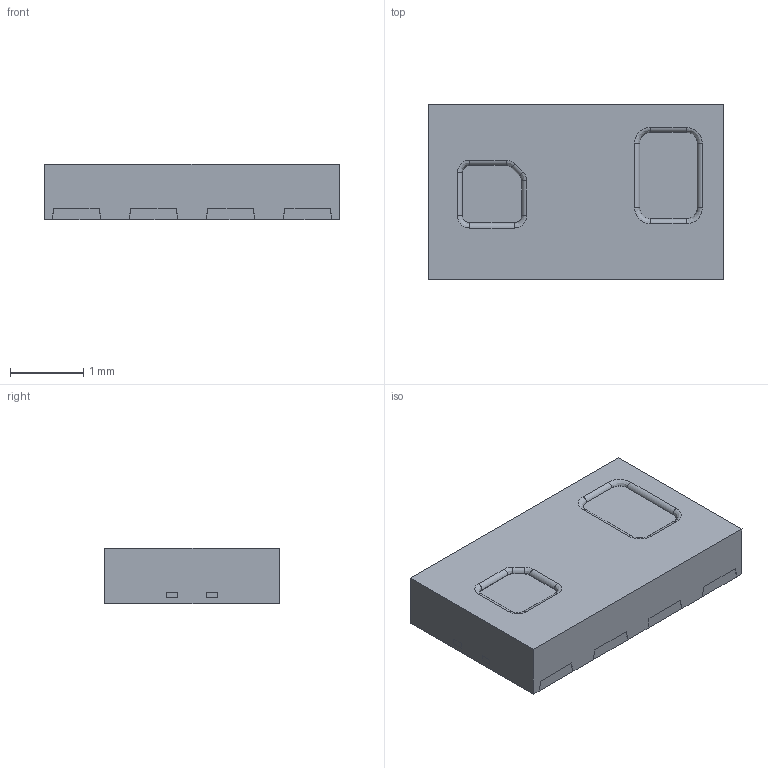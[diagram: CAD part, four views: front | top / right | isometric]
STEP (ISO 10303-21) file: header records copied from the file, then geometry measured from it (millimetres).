
FILE_DESCRIPTION(/* description */ (''),/* implementation_level */ '2;1');
FILE_NAME(/* name */ '\\wshn11\hn_users\akamay\Desktop\VCNL4030_MarCom_STEP.stp',/* time_stamp */ '2017-06-28T09:26:52+02:00',/* author */ ('akamay'),/* organization */ (''),/* preprocessor_version */ 'ST-DEVELOPER v16.1',/* originating_system */ 'Autodesk Inventor 2016',/* authorisation */ '');
FILE_SCHEMA (('AUTOMOTIVE_DESIGN { 1 0 10303 214 3 1 1 }'));
Length unit declared in the file: millimetre
Products named in the file (1): AK-3.0004.6_STEP
Bounding box: 4.02 x 2.38 x 0.75 mm (x, y, z)
Volume: 7.1 mm3; surface area: 29 mm2
Topology: 1 solids, 5 shells, 76 faces, 294 edges, 230 vertices
Faces by surface type: plane 37, cylinder 22, bspline 17
Entity records: 3632 total; most frequent: CARTESIAN_POINT 951, ORIENTED_EDGE 596, DIRECTION 500, EDGE_CURVE 294, VERTEX_POINT 230, LINE 192, VECTOR 192, AXIS2_PLACEMENT_3D 154
